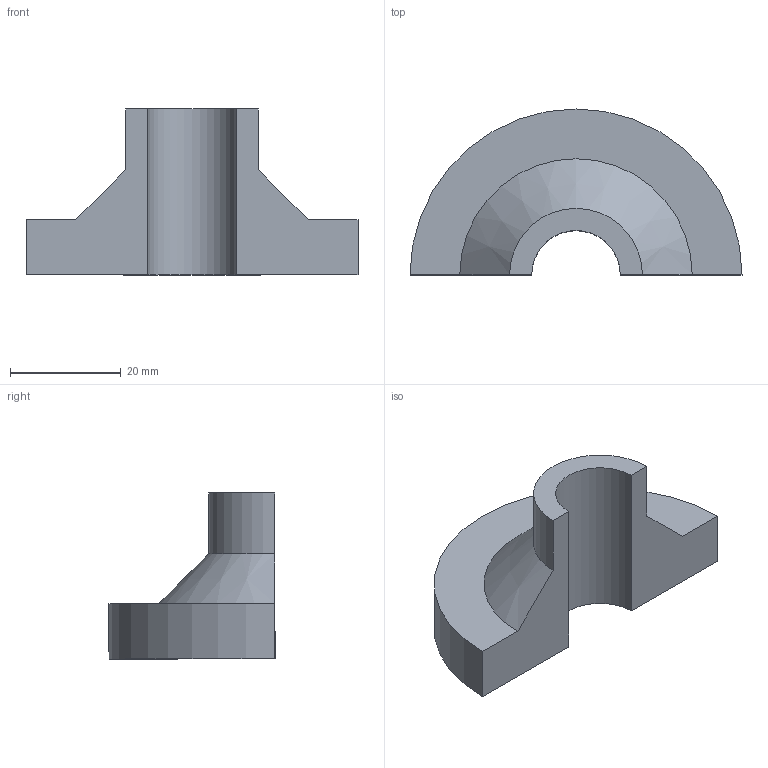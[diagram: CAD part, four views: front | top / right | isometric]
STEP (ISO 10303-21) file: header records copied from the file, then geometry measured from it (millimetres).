
FILE_DESCRIPTION(('FreeCAD Model'),'2;1');
FILE_NAME('/home/alexandre/Bureau/Cours-FreeCAD/Exercices/Exo-3.step', '2016-05-29T16:10:53',('Almisuifre'),(''), 'Open CASCADE STEP processor 6.8','FreeCAD','Unknown');
FILE_SCHEMA(('AUTOMOTIVE_DESIGN_CC2 { 1 2 10303 214 -1 1 5 4 }'));
Length unit declared in the file: millimetre
Products named in the file (2): ASSEMBLY; Revolution
Assembly tree (1 placements, depth 2):
  ASSEMBLY
    Revolution
Bounding box: 60 x 30 x 30 mm (x, y, z)
Volume: 17553.6 mm3; surface area: 5611.8 mm2
Topology: 1 solids, 1 shells, 9 faces, 21 edges, 14 vertices
Faces by surface type: plane 5, cylinder 3, cone 1
Entity records: 574 total; most frequent: DIRECTION 92, CARTESIAN_POINT 88, LINE 50, VECTOR 50, ORIENTED_EDGE 42, PCURVE 42, DEFINITIONAL_REPRESENTATION 42, EDGE_CURVE 21
